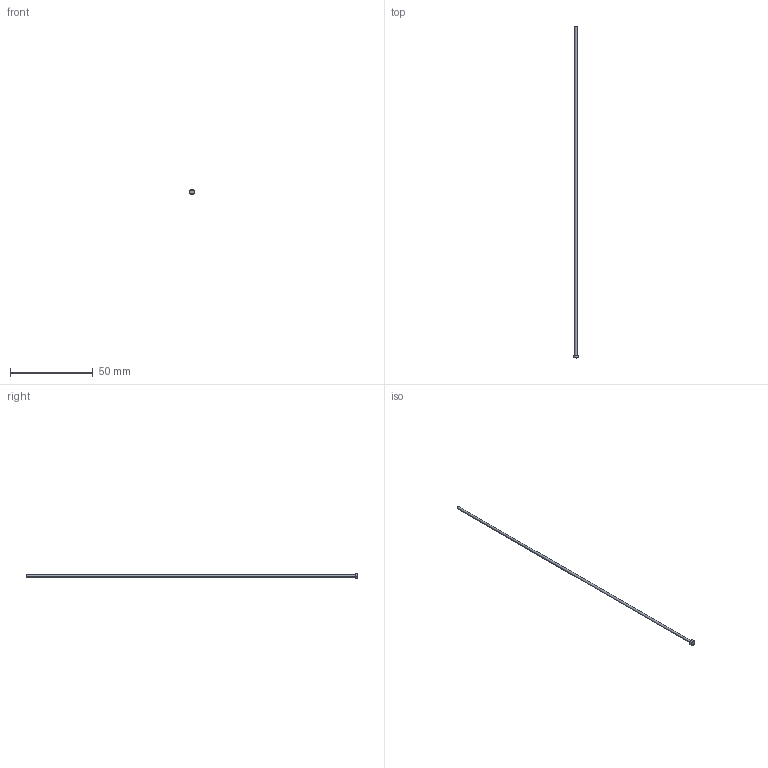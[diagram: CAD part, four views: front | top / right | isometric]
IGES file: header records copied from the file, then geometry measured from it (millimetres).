
Start section: SolidWorks IGES file using analytic representation for surfaces
Global section: file name: C:\Users\User\Downloads\Matripeça 31-08 tar\PB - PINO EXTRATOR TIPO _B_ (CATÁLOGO)\PB01,5\PB01,5200.IGS; native system: SolidWorks 2024; preprocessor: SolidWorks 2024; author: User; date: 260901.140040; units: millimetre
Bounding box: 3 x 200 x 3 mm (x, y, z)
Surface area: 965.7 mm2 (no closed solid volume)
Topology: 0 solids, 0 shells, 398 faces, 2656 edges, 2656 vertices
Faces by surface type: bspline 384, revolution 14
